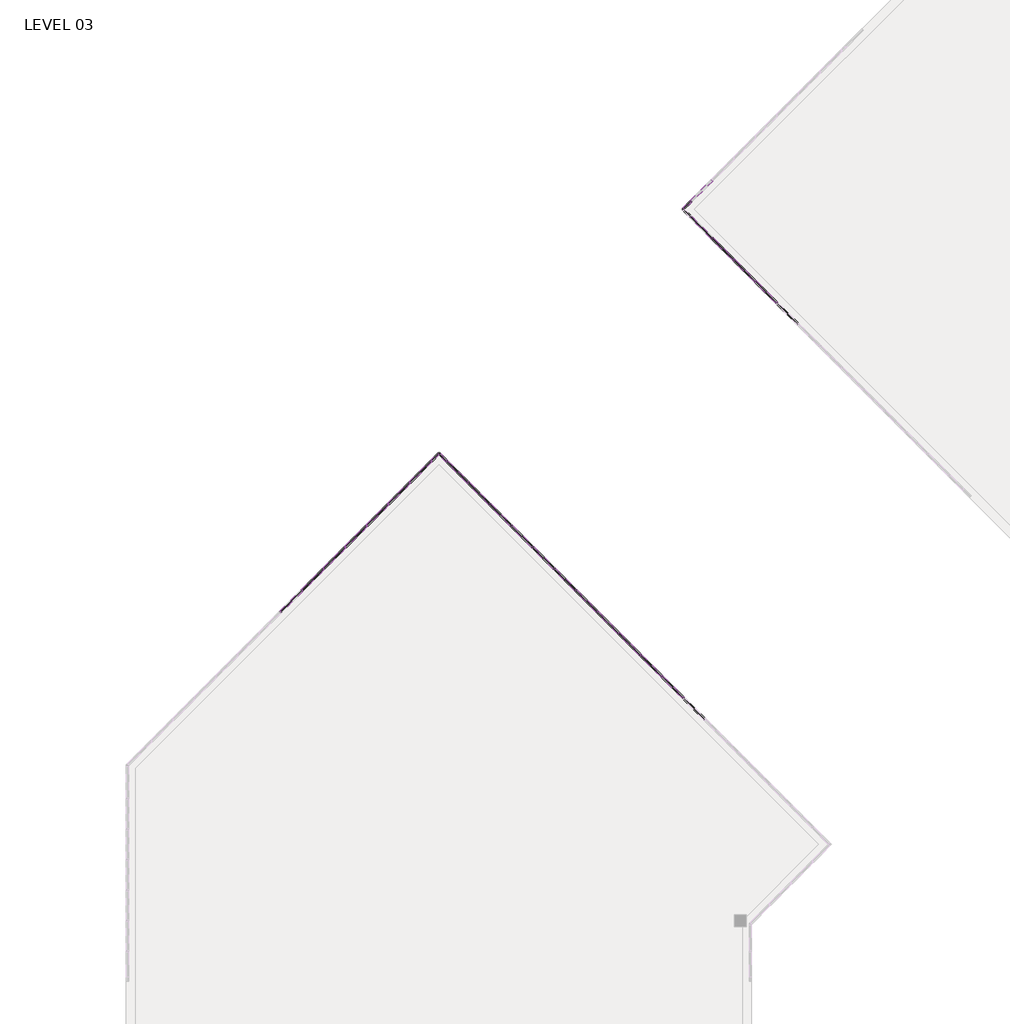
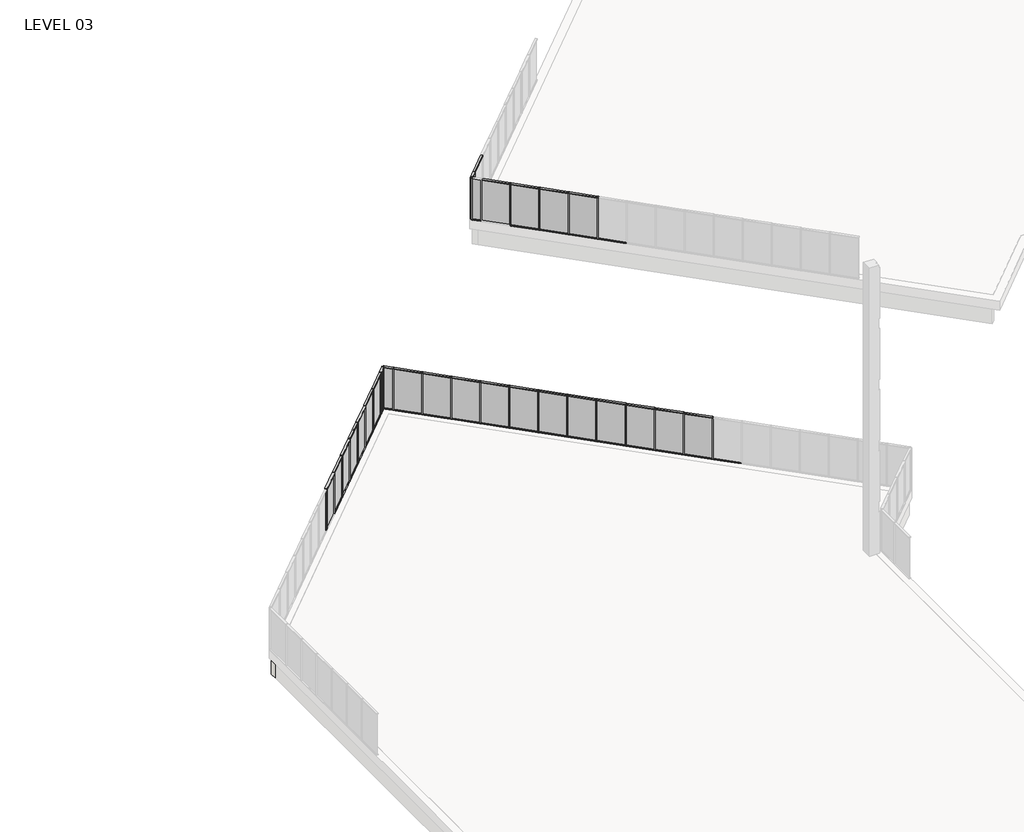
# One storey, part 6 of 18: 81 members, 26 plates, 2 walls.
"""IFC4 building model written with IfcOpenShell, lengths in millimetres."""

from ifc_helpers import new_model, si_unit, origin, place, context, project, spatial, faceted_brep, transform, mapped, element, save
from components import member_5247f267, member_e44af9ab, member_800970d4, member_ac5115e9, member_25b26a38, member_910c08c9, plate_67294edd, plate_c01932d8, plate_6d527a83, plate_88df3e37

model = new_model("IFC4")

# Units and contexts
model_context = context("Model", 3, world=origin())
ifc_project = project(units=[si_unit("LENGTHUNIT", "METRE", prefix="MILLI")], contexts=[model_context])

# Site, building, storey
site = spatial("IfcSite", under=ifc_project)
building = spatial("IfcBuilding", under=site)
storey = spatial("IfcBuildingStorey", under=building, Name="LEVEL 03", Elevation=8280.4)

# Members
placement = place(None, origin())
member_shape = member_5247f267(model_context)
element("IfcMember", 1, ObjectType="Rectangular Mullion : 2\" x 4.5\" rectangular", at=placement, inside=storey, context=model_context, shape_type="MappedRepresentation", body=[
    mapped(member_shape, transform((-3497.8097592, 103063.8559285, 8280.4), x_axis=(0.0, 0.0, -1.0), y_axis=(-0.7071067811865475, -0.7071067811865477, 0.0), z_axis=(-0.7071067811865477, 0.7071067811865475, 0.0))),
])
element("IfcMember", 2, ObjectType="Rectangular Mullion : 2\" x 4.5\" rectangular", at=placement, inside=storey, context=model_context, shape_type="MappedRepresentation", body=[
    mapped(member_shape, transform((-2420.1790246, 101986.2251939, 8280.4), x_axis=(0.0, 0.0, -1.0), y_axis=(-0.7071067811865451, -0.7071067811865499, 0.0), z_axis=(-0.7071067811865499, 0.7071067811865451, 0.0))),
])
element("IfcMember", 3, ObjectType="Rectangular Mullion : 2\" x 4.5\" rectangular", at=placement, inside=storey, context=model_context, shape_type="MappedRepresentation", body=[
    mapped(member_shape, transform((-1342.5482901, 100908.5944594, 8280.4), x_axis=(0.0, 0.0, -1.0), y_axis=(-0.7071067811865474, -0.7071067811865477, 0.0), z_axis=(-0.7071067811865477, 0.7071067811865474, 0.0))),
])
element("IfcMember", 4, ObjectType="Rectangular Mullion : 2\" x 4.5\" rectangular", at=placement, inside=storey, context=model_context, shape_type="MappedRepresentation", body=[
    mapped(member_shape, transform((-264.9175556, 99830.9637249, 8280.4), x_axis=(0.0, 0.0, -1.0), y_axis=(-0.7071067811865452, -0.7071067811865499, 0.0), z_axis=(-0.7071067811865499, 0.7071067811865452, 0.0))),
])
element("IfcMember", 5, ObjectType="Rectangular Mullion : 2\" x 4.5\" rectangular", at=placement, inside=storey, context=model_context, shape_type="MappedRepresentation", body=[
    mapped(member_shape, transform((-3533.7307836, 103099.7769529, 10871.2), x_axis=(0.0, 0.0, 1.0), y_axis=(-0.7071067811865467, -0.7071067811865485, 0.0), z_axis=(0.7071067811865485, -0.7071067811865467, 0.0))),
])
element("IfcMember", 6, ObjectType="Rectangular Mullion : 2\" x 4.5\" rectangular", at=placement, inside=storey, context=model_context, shape_type="MappedRepresentation", body=[
    mapped(member_shape, transform((-2456.1000491, 102022.1462184, 10871.2), x_axis=(0.0, 0.0, 1.0), y_axis=(-0.7071067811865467, -0.7071067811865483, 0.0), z_axis=(0.7071067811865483, -0.7071067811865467, 0.0))),
])
element("IfcMember", 7, ObjectType="Rectangular Mullion : 2\" x 4.5\" rectangular", at=placement, inside=storey, context=model_context, shape_type="MappedRepresentation", body=[
    mapped(member_shape, transform((-1378.4693146, 100944.5154839, 10871.2), x_axis=(0.0, 0.0, 1.0), y_axis=(-0.707106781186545, -0.7071067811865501, 0.0), z_axis=(0.7071067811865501, -0.707106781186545, 0.0))),
])
element("IfcMember", 8, ObjectType="Rectangular Mullion : 2\" x 4.5\" rectangular", at=placement, inside=storey, context=model_context, shape_type="MappedRepresentation", body=[
    mapped(member_shape, transform((-4575.6191663, 104942.0892742, 10871.2), x_axis=(0.0, 0.0, 1.0), y_axis=(-0.7071067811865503, 0.7071067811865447, 0.0), z_axis=(-0.7071067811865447, -0.7071067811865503, 0.0))),
])
element("IfcMember", 9, ObjectType="Rectangular Mullion : 2\" x 4.5\" rectangular", at=placement, inside=storey, context=model_context, shape_type="MappedRepresentation", body=[
    mapped(member_shape, transform((-300.8385801, 99866.8847494, 10871.2), x_axis=(0.0, 0.0, 1.0), y_axis=(-0.7071067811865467, -0.7071067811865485, 0.0), z_axis=(0.7071067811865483, -0.7071067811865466, 0.0))),
])
member_2_shape = member_e44af9ab(model_context)
element("IfcMember", 10, ObjectType="Rectangular Mullion : 2\" x 4.5\" rectangular", at=placement, inside=storey, context=model_context, shape_type="MappedRepresentation", body=[
    mapped(member_2_shape, transform((-3515.7702714, 103081.8164407, 8280.4), x_axis=(0.7071067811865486, -0.7071067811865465, 0.0), y_axis=(-0.7071067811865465, -0.7071067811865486, 0.0), z_axis=(0.0, 0.0, -1.0))),
])
element("IfcMember", 11, ObjectType="Rectangular Mullion : 2\" x 4.5\" rectangular", at=placement, inside=storey, context=model_context, shape_type="MappedRepresentation", body=[
    mapped(member_2_shape, transform((-2438.1395369, 102004.1857062, 8280.4), x_axis=(0.7071067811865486, -0.7071067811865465, 0.0), y_axis=(-0.7071067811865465, -0.7071067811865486, 0.0), z_axis=(0.0, 0.0, -1.0))),
])
element("IfcMember", 12, ObjectType="Rectangular Mullion : 2\" x 4.5\" rectangular", at=placement, inside=storey, context=model_context, shape_type="MappedRepresentation", body=[
    mapped(member_2_shape, transform((-1360.5088023, 100926.5549716, 8280.4), x_axis=(0.7071067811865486, -0.7071067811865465, 0.0), y_axis=(-0.7071067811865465, -0.7071067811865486, 0.0), z_axis=(0.0, 0.0, -1.0))),
])
element("IfcMember", 13, ObjectType="Rectangular Mullion : 2\" x 4.5\" rectangular", at=placement, inside=storey, context=model_context, shape_type="MappedRepresentation", body=[
    mapped(member_2_shape, transform((-4593.5796786, 104924.128762, 8280.4), x_axis=(-0.7071067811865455, -0.7071067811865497, 0.0), y_axis=(-0.7071067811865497, 0.7071067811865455, 0.0), z_axis=(0.0, 0.0, -1.0))),
])
element("IfcMember", 14, ObjectType="Rectangular Mullion : 2\" x 4.5\" rectangular", at=placement, inside=storey, context=model_context, shape_type="MappedRepresentation", body=[
    mapped(member_2_shape, transform((-282.8780678, 99848.9242371, 8280.4), x_axis=(0.7071067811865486, -0.7071067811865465, 0.0), y_axis=(-0.7071067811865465, -0.7071067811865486, 0.0), z_axis=(0.0, 0.0, -1.0))),
])
member_3_shape = member_800970d4(model_context)
element("IfcMember", 15, ObjectType="Rectangular Mullion : 2\" x 4.5\" rectangular", at=placement, inside=storey, context=model_context, shape_type="MappedRepresentation", body=[
    mapped(member_3_shape, transform((-4975.8311356, 104541.8773049, 8280.4), x_axis=(-0.7071067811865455, -0.7071067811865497, 0.0), y_axis=(-0.7071067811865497, 0.7071067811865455, 0.0), z_axis=(0.0, 0.0, -1.0))),
])
element("IfcMember", 16, ObjectType="Rectangular Mullion : 2\" x 4.5\" rectangular", at=placement, inside=storey, context=model_context, shape_type="MappedRepresentation", body=[
    mapped(member_3_shape, transform((-4975.8311356, 104541.8773049, 10871.2), x_axis=(-0.7071067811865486, 0.7071067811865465, 0.0), y_axis=(-0.7071067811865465, -0.7071067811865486, 0.0), z_axis=(0.0, 0.0, 1.0))),
])
member_4_shape = member_ac5115e9(model_context)
element("IfcMember", 17, ObjectType="Rectangular Mullion : 2\" x 4.5\" rectangular", at=placement, inside=storey, context=model_context, shape_type="MappedRepresentation", body=[
    mapped(member_4_shape, transform((-4939.9101111, 104577.7983294, 10871.2), x_axis=(0.0, 0.0, 1.0), y_axis=(-0.7071067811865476, 0.7071067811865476, 0.0), z_axis=(-0.7071067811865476, -0.7071067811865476, 0.0))),
])
element("IfcMember", 18, ObjectType="Rectangular Mullion : 2\" x 4.5\" rectangular", at=placement, inside=storey, context=model_context, shape_type="MappedRepresentation", body=[
    mapped(member_4_shape, transform((-4611.5401908, 104906.1682497, 8280.4), x_axis=(0.0, 0.0, -1.0), y_axis=(-0.7071067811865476, 0.7071067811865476, 0.0), z_axis=(0.7071067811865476, 0.7071067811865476, 0.0))),
])
member_5_shape = member_25b26a38(model_context)
element("IfcMember", 19, ObjectType="Rectangular Mullion : 2\" x 4.5\" rectangular", at=placement, inside=storey, context=model_context, shape_type="MappedRepresentation", body=[
    mapped(member_5_shape, transform((-4939.9101111, 104505.9562804, 8280.4), x_axis=(0.0, 0.0, -1.0), y_axis=(-0.7071067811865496, -0.7071067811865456, 0.0), z_axis=(-0.7071067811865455, 0.7071067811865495, 0.0))),
])
element("IfcMember", 20, ObjectType="Rectangular Mullion : 2\" x 4.5\" rectangular", at=placement, inside=storey, context=model_context, shape_type="MappedRepresentation", body=[
    mapped(member_shape, transform((-24063.9560929, 85453.7523477, 10871.2), x_axis=(0.0, 0.0, 1.0), y_axis=(0.707106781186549, -0.7071067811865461, 0.0), z_axis=(0.7071067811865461, 0.707106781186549, 0.0))),
])
element("IfcMember", 21, ObjectType="Rectangular Mullion : 2\" x 4.5\" rectangular", at=placement, inside=storey, context=model_context, shape_type="MappedRepresentation", body=[
    mapped(member_shape, transform((-18675.8024202, 90841.9060203, 10871.2), x_axis=(0.0, 0.0, 1.0), y_axis=(0.707106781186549, -0.7071067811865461, 0.0), z_axis=(0.7071067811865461, 0.707106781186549, 0.0))),
])
element("IfcMember", 22, ObjectType="Rectangular Mullion : 2\" x 4.5\" rectangular", at=placement, inside=storey, context=model_context, shape_type="MappedRepresentation", body=[
    mapped(member_shape, transform((-15755.8593644, 90877.6483722, 10871.2), x_axis=(0.0, 0.0, 1.0), y_axis=(-0.7071067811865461, -0.707106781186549, 0.0), z_axis=(0.707106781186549, -0.7071067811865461, 0.0))),
])
element("IfcMember", 23, ObjectType="Rectangular Mullion : 2\" x 4.5\" rectangular", at=placement, inside=storey, context=model_context, shape_type="MappedRepresentation", body=[
    mapped(member_shape, transform((-14678.2286299, 89800.0176376, 10871.2), x_axis=(0.0, 0.0, 1.0), y_axis=(-0.7071067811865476, -0.7071067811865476, 0.0), z_axis=(0.7071067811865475, -0.7071067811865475, 0.0))),
])
element("IfcMember", 24, ObjectType="Rectangular Mullion : 2\" x 4.5\" rectangular", at=placement, inside=storey, context=model_context, shape_type="MappedRepresentation", body=[
    mapped(member_shape, transform((-13600.5978954, 88722.3869031, 10871.2), x_axis=(0.0, 0.0, 1.0), y_axis=(-0.7071067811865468, -0.7071067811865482, 0.0), z_axis=(0.7071067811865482, -0.7071067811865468, 0.0))),
])
element("IfcMember", 25, ObjectType="Rectangular Mullion : 2\" x 4.5\" rectangular", at=placement, inside=storey, context=model_context, shape_type="MappedRepresentation", body=[
    mapped(member_shape, transform((-11445.3364263, 86567.125434, 10871.2), x_axis=(0.0, 0.0, 1.0), y_axis=(-0.7071067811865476, -0.7071067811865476, 0.0), z_axis=(0.7071067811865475, -0.7071067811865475, 0.0))),
])
element("IfcMember", 26, ObjectType="Rectangular Mullion : 2\" x 4.5\" rectangular", at=placement, inside=storey, context=model_context, shape_type="MappedRepresentation", body=[
    mapped(member_shape, transform((-10367.7056918, 85489.4946995, 10871.2), x_axis=(0.0, 0.0, 1.0), y_axis=(-0.7071067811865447, -0.7071067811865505, 0.0), z_axis=(0.7071067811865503, -0.7071067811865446, 0.0))),
])
element("IfcMember", 27, ObjectType="Rectangular Mullion : 2\" x 4.5\" rectangular", at=placement, inside=storey, context=model_context, shape_type="MappedRepresentation", body=[
    mapped(member_shape, transform((-9290.0749572, 84411.863965, 10871.2), x_axis=(0.0, 0.0, 1.0), y_axis=(-0.7071067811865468, -0.7071067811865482, 0.0), z_axis=(0.7071067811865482, -0.7071067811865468, 0.0))),
])
element("IfcMember", 28, ObjectType="Rectangular Mullion : 2\" x 4.5\" rectangular", at=placement, inside=storey, context=model_context, shape_type="MappedRepresentation", body=[
    mapped(member_shape, transform((-8212.4442227, 83334.2332305, 10871.2), x_axis=(0.0, 0.0, 1.0), y_axis=(-0.7071067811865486, -0.7071067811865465, 0.0), z_axis=(0.7071067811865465, -0.7071067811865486, 0.0))),
])
element("IfcMember", 29, ObjectType="Rectangular Mullion : 2\" x 4.5\" rectangular", at=placement, inside=storey, context=model_context, shape_type="MappedRepresentation", body=[
    mapped(member_shape, transform((-4979.9093644, 80101.6983722, 10871.2), x_axis=(0.0, 0.0, 1.0), y_axis=(-0.7071067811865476, -0.7071067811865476, 0.0), z_axis=(0.7071067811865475, -0.7071067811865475, 0.0))),
])
element("IfcMember", 30, ObjectType="Rectangular Mullion : 2\" x 4.5\" rectangular", at=placement, inside=storey, context=model_context, shape_type="MappedRepresentation", body=[
    mapped(member_shape, transform((-21908.6946238, 87609.0138167, 10871.2), x_axis=(0.0, 0.0, 1.0), y_axis=(0.707106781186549, -0.7071067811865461, 0.0), z_axis=(0.7071067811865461, 0.707106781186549, 0.0))),
])
element("IfcMember", 31, ObjectType="Rectangular Mullion : 2\" x 4.5\" rectangular", at=placement, inside=storey, context=model_context, shape_type="MappedRepresentation", body=[
    mapped(member_shape, transform((-22986.3253583, 86531.3830822, 10871.2), x_axis=(0.0, 0.0, 1.0), y_axis=(0.7071067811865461, -0.707106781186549, 0.0), z_axis=(0.707106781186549, 0.7071067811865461, 0.0))),
])
element("IfcMember", 32, ObjectType="Rectangular Mullion : 2\" x 4.5\" rectangular", at=placement, inside=storey, context=model_context, shape_type="MappedRepresentation", body=[
    mapped(member_shape, transform((-20831.0638893, 88686.6445513, 10871.2), x_axis=(0.0, 0.0, 1.0), y_axis=(0.7071067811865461, -0.707106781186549, 0.0), z_axis=(0.707106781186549, 0.7071067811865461, 0.0))),
])
element("IfcMember", 33, ObjectType="Rectangular Mullion : 2\" x 4.5\" rectangular", at=placement, inside=storey, context=model_context, shape_type="MappedRepresentation", body=[
    mapped(member_shape, transform((-19753.4331548, 89764.2752858, 10871.2), x_axis=(0.0, 0.0, 1.0), y_axis=(0.7071067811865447, -0.7071067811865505, 0.0), z_axis=(0.7071067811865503, 0.7071067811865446, 0.0))),
])
element("IfcMember", 34, ObjectType="Rectangular Mullion : 2\" x 4.5\" rectangular", at=placement, inside=storey, context=model_context, shape_type="MappedRepresentation", body=[
    mapped(member_shape, transform((-17598.1716857, 91919.5367548, 10871.2), x_axis=(0.0, 0.0, 1.0), y_axis=(0.7071067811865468, -0.7071067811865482, 0.0), z_axis=(0.7071067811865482, 0.7071067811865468, 0.0))),
])
element("IfcMember", 35, ObjectType="Rectangular Mullion : 2\" x 4.5\" rectangular", at=placement, inside=storey, context=model_context, shape_type="MappedRepresentation", body=[
    mapped(member_shape, transform((-12522.9671608, 87644.7561686, 10871.2), x_axis=(0.0, 0.0, 1.0), y_axis=(-0.7071067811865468, -0.7071067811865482, 0.0), z_axis=(0.7071067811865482, -0.7071067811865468, 0.0))),
])
element("IfcMember", 36, ObjectType="Rectangular Mullion : 2\" x 4.5\" rectangular", at=placement, inside=storey, context=model_context, shape_type="MappedRepresentation", body=[
    mapped(member_shape, transform((-24028.0350684, 85489.6733722, 8280.4), x_axis=(0.0, 0.0, -1.0), y_axis=(0.7071067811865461, -0.707106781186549, 0.0), z_axis=(-0.707106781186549, -0.7071067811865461, 0.0))),
])
element("IfcMember", 37, ObjectType="Rectangular Mullion : 2\" x 4.5\" rectangular", at=placement, inside=storey, context=model_context, shape_type="MappedRepresentation", body=[
    mapped(member_shape, transform((-18639.8813957, 90877.8270448, 8280.4), x_axis=(0.0, 0.0, -1.0), y_axis=(0.7071067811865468, -0.7071067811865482, 0.0), z_axis=(-0.7071067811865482, -0.7071067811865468, 0.0))),
])
element("IfcMember", 38, ObjectType="Rectangular Mullion : 2\" x 4.5\" rectangular", at=placement, inside=storey, context=model_context, shape_type="MappedRepresentation", body=[
    mapped(member_shape, transform((-15719.9383399, 90841.7273477, 8280.4), x_axis=(0.0, 0.0, -1.0), y_axis=(-0.7071067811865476, -0.7071067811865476, 0.0), z_axis=(-0.7071067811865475, 0.7071067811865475, 0.0))),
])
element("IfcMember", 39, ObjectType="Rectangular Mullion : 2\" x 4.5\" rectangular", at=placement, inside=storey, context=model_context, shape_type="MappedRepresentation", body=[
    mapped(member_shape, transform((-14642.3076054, 89764.0966131, 8280.4), x_axis=(0.0, 0.0, -1.0), y_axis=(-0.707106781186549, -0.7071067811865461, 0.0), z_axis=(-0.7071067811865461, 0.707106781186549, 0.0))),
])
element("IfcMember", 40, ObjectType="Rectangular Mullion : 2\" x 4.5\" rectangular", at=placement, inside=storey, context=model_context, shape_type="MappedRepresentation", body=[
    mapped(member_shape, transform((-13564.6768709, 88686.4658786, 8280.4), x_axis=(0.0, 0.0, -1.0), y_axis=(-0.7071067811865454, -0.7071067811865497, 0.0), z_axis=(-0.7071067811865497, 0.7071067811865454, 0.0))),
])
element("IfcMember", 41, ObjectType="Rectangular Mullion : 2\" x 4.5\" rectangular", at=placement, inside=storey, context=model_context, shape_type="MappedRepresentation", body=[
    mapped(member_shape, transform((-11409.4154018, 86531.2044096, 8280.4), x_axis=(0.0, 0.0, -1.0), y_axis=(-0.7071067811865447, -0.7071067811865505, 0.0), z_axis=(-0.7071067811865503, 0.7071067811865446, 0.0))),
])
element("IfcMember", 42, ObjectType="Rectangular Mullion : 2\" x 4.5\" rectangular", at=placement, inside=storey, context=model_context, shape_type="MappedRepresentation", body=[
    mapped(member_shape, transform((-10331.7846673, 85453.573675, 8280.4), x_axis=(0.0, 0.0, -1.0), y_axis=(-0.7071067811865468, -0.7071067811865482, 0.0), z_axis=(-0.7071067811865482, 0.7071067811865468, 0.0))),
])
element("IfcMember", 43, ObjectType="Rectangular Mullion : 2\" x 4.5\" rectangular", at=placement, inside=storey, context=model_context, shape_type="MappedRepresentation", body=[
    mapped(member_shape, transform((-9254.1539328, 84375.9429405, 8280.4), x_axis=(0.0, 0.0, -1.0), y_axis=(-0.7071067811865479, -0.7071067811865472, 0.0), z_axis=(-0.7071067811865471, 0.7071067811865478, 0.0))),
])
element("IfcMember", 44, ObjectType="Rectangular Mullion : 2\" x 4.5\" rectangular", at=placement, inside=storey, context=model_context, shape_type="MappedRepresentation", body=[
    mapped(member_shape, transform((-6021.6190745, 81143.4080822, 8280.4), x_axis=(0.0, 0.0, -1.0), y_axis=(-0.7071067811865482, -0.7071067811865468, 0.0), z_axis=(-0.7071067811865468, 0.7071067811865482, 0.0))),
])
element("IfcMember", 45, ObjectType="Rectangular Mullion : 2\" x 4.5\" rectangular", at=placement, inside=storey, context=model_context, shape_type="MappedRepresentation", body=[
    mapped(member_shape, transform((-4943.9883399, 80065.7773477, 8280.4), x_axis=(0.0, 0.0, -1.0), y_axis=(-0.7071067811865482, -0.7071067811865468, 0.0), z_axis=(-0.7071067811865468, 0.7071067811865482, 0.0))),
])
element("IfcMember", 46, ObjectType="Rectangular Mullion : 2\" x 4.5\" rectangular", at=placement, inside=storey, context=model_context, shape_type="MappedRepresentation", body=[
    mapped(member_shape, transform((-21872.7735993, 87644.9348412, 8280.4), x_axis=(0.0, 0.0, -1.0), y_axis=(0.7071067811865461, -0.707106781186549, 0.0), z_axis=(-0.707106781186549, -0.7071067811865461, 0.0))),
])
element("IfcMember", 47, ObjectType="Rectangular Mullion : 2\" x 4.5\" rectangular", at=placement, inside=storey, context=model_context, shape_type="MappedRepresentation", body=[
    mapped(member_shape, transform((-22950.4043339, 86567.3041067, 8280.4), x_axis=(0.0, 0.0, -1.0), y_axis=(0.707106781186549, -0.7071067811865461, 0.0), z_axis=(-0.7071067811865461, -0.707106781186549, 0.0))),
])
element("IfcMember", 48, ObjectType="Rectangular Mullion : 2\" x 4.5\" rectangular", at=placement, inside=storey, context=model_context, shape_type="MappedRepresentation", body=[
    mapped(member_shape, transform((-20795.1428648, 88722.5655757, 8280.4), x_axis=(0.0, 0.0, -1.0), y_axis=(0.7071067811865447, -0.7071067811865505, 0.0), z_axis=(-0.7071067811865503, -0.7071067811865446, 0.0))),
])
element("IfcMember", 49, ObjectType="Rectangular Mullion : 2\" x 4.5\" rectangular", at=placement, inside=storey, context=model_context, shape_type="MappedRepresentation", body=[
    mapped(member_shape, transform((-19717.5121303, 89800.1963103, 8280.4), x_axis=(0.0, 0.0, -1.0), y_axis=(0.707106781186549, -0.7071067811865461, 0.0), z_axis=(-0.7071067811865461, -0.707106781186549, 0.0))),
])
element("IfcMember", 50, ObjectType="Rectangular Mullion : 2\" x 4.5\" rectangular", at=placement, inside=storey, context=model_context, shape_type="MappedRepresentation", body=[
    mapped(member_shape, transform((-12487.0461363, 87608.8351441, 8280.4), x_axis=(0.0, 0.0, -1.0), y_axis=(-0.7071067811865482, -0.7071067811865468, 0.0), z_axis=(-0.7071067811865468, 0.7071067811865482, 0.0))),
])
element("IfcMember", 51, ObjectType="Rectangular Mullion : 2\" x 4.5\" rectangular", at=placement, inside=storey, context=model_context, shape_type="MappedRepresentation", body=[
    mapped(member_shape, transform((-16797.5690745, 91919.3580822, 8280.4), x_axis=(0.0, 0.0, -1.0), y_axis=(-0.7071067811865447, -0.7071067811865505, 0.0), z_axis=(-0.7071067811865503, 0.7071067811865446, 0.0))),
])
element("IfcMember", 52, ObjectType="Rectangular Mullion : 2\" x 4.5\" rectangular", at=placement, inside=storey, context=model_context, shape_type="MappedRepresentation", body=[
    mapped(member_2_shape, transform((-25123.6263152, 84394.0821254, 8280.4), x_axis=(0.7071067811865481, 0.7071067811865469, 0.0), y_axis=(0.7071067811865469, -0.7071067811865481, 0.0), z_axis=(0.0, 0.0, -1.0))),
])
element("IfcMember", 53, ObjectType="Rectangular Mullion : 2\" x 4.5\" rectangular", at=placement, inside=storey, context=model_context, shape_type="MappedRepresentation", body=[
    mapped(member_2_shape, transform((-24045.9955806, 85471.7128599, 8280.4), x_axis=(0.7071067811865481, 0.7071067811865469, 0.0), y_axis=(0.7071067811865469, -0.7071067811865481, 0.0), z_axis=(0.0, 0.0, -1.0))),
])
element("IfcMember", 54, ObjectType="Rectangular Mullion : 2\" x 4.5\" rectangular", at=placement, inside=storey, context=model_context, shape_type="MappedRepresentation", body=[
    mapped(member_2_shape, transform((-18657.841908, 90859.8665326, 8280.4), x_axis=(0.7071067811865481, 0.7071067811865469, 0.0), y_axis=(0.7071067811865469, -0.7071067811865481, 0.0), z_axis=(0.0, 0.0, -1.0))),
])
element("IfcMember", 55, ObjectType="Rectangular Mullion : 2\" x 4.5\" rectangular", at=placement, inside=storey, context=model_context, shape_type="MappedRepresentation", body=[
    mapped(member_2_shape, transform((-15737.8988522, 90859.6878599, 8280.4), x_axis=(0.707106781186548, -0.7071067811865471, 0.0), y_axis=(-0.7071067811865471, -0.707106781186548, 0.0), z_axis=(0.0, 0.0, -1.0))),
])
element("IfcMember", 56, ObjectType="Rectangular Mullion : 2\" x 4.5\" rectangular", at=placement, inside=storey, context=model_context, shape_type="MappedRepresentation", body=[
    mapped(member_2_shape, transform((-14660.2681176, 89782.0571254, 8280.4), x_axis=(0.707106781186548, -0.7071067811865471, 0.0), y_axis=(-0.7071067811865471, -0.707106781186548, 0.0), z_axis=(0.0, 0.0, -1.0))),
])
element("IfcMember", 57, ObjectType="Rectangular Mullion : 2\" x 4.5\" rectangular", at=placement, inside=storey, context=model_context, shape_type="MappedRepresentation", body=[
    mapped(member_2_shape, transform((-13582.6373831, 88704.4263909, 8280.4), x_axis=(0.707106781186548, -0.7071067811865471, 0.0), y_axis=(-0.7071067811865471, -0.707106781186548, 0.0), z_axis=(0.0, 0.0, -1.0))),
])
element("IfcMember", 58, ObjectType="Rectangular Mullion : 2\" x 4.5\" rectangular", at=placement, inside=storey, context=model_context, shape_type="MappedRepresentation", body=[
    mapped(member_2_shape, transform((-11427.3759141, 86549.1649218, 8280.4), x_axis=(0.707106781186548, -0.7071067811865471, 0.0), y_axis=(-0.7071067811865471, -0.707106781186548, 0.0), z_axis=(0.0, 0.0, -1.0))),
])
element("IfcMember", 59, ObjectType="Rectangular Mullion : 2\" x 4.5\" rectangular", at=placement, inside=storey, context=model_context, shape_type="MappedRepresentation", body=[
    mapped(member_2_shape, transform((-10349.7451795, 85471.5341873, 8280.4), x_axis=(0.707106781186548, -0.7071067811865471, 0.0), y_axis=(-0.7071067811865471, -0.707106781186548, 0.0), z_axis=(0.0, 0.0, -1.0))),
])
element("IfcMember", 60, ObjectType="Rectangular Mullion : 2\" x 4.5\" rectangular", at=placement, inside=storey, context=model_context, shape_type="MappedRepresentation", body=[
    mapped(member_2_shape, transform((-9272.114445, 84393.9034527, 8280.4), x_axis=(0.707106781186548, -0.7071067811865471, 0.0), y_axis=(-0.7071067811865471, -0.707106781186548, 0.0), z_axis=(0.0, 0.0, -1.0))),
])
element("IfcMember", 61, ObjectType="Rectangular Mullion : 2\" x 4.5\" rectangular", at=placement, inside=storey, context=model_context, shape_type="MappedRepresentation", body=[
    mapped(member_2_shape, transform((-8194.4837105, 83316.2727182, 8280.4), x_axis=(0.707106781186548, -0.7071067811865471, 0.0), y_axis=(-0.7071067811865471, -0.707106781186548, 0.0), z_axis=(0.0, 0.0, -1.0))),
])
element("IfcMember", 62, ObjectType="Rectangular Mullion : 2\" x 4.5\" rectangular", at=placement, inside=storey, context=model_context, shape_type="MappedRepresentation", body=[
    mapped(member_2_shape, transform((-6039.5795867, 81161.3685944, 8280.4), x_axis=(0.707106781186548, -0.7071067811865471, 0.0), y_axis=(-0.7071067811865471, -0.707106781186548, 0.0), z_axis=(0.0, 0.0, -1.0))),
])
element("IfcMember", 63, ObjectType="Rectangular Mullion : 2\" x 4.5\" rectangular", at=placement, inside=storey, context=model_context, shape_type="MappedRepresentation", body=[
    mapped(member_2_shape, transform((-4961.9488522, 80083.7378599, 8280.4), x_axis=(0.707106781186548, -0.7071067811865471, 0.0), y_axis=(-0.7071067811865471, -0.707106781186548, 0.0), z_axis=(0.0, 0.0, -1.0))),
])
element("IfcMember", 64, ObjectType="Rectangular Mullion : 2\" x 4.5\" rectangular", at=placement, inside=storey, context=model_context, shape_type="MappedRepresentation", body=[
    mapped(member_2_shape, transform((-21890.7341116, 87626.974329, 8280.4), x_axis=(0.7071067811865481, 0.7071067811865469, 0.0), y_axis=(0.7071067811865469, -0.7071067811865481, 0.0), z_axis=(0.0, 0.0, -1.0))),
])
element("IfcMember", 65, ObjectType="Rectangular Mullion : 2\" x 4.5\" rectangular", at=placement, inside=storey, context=model_context, shape_type="MappedRepresentation", body=[
    mapped(member_2_shape, transform((-22968.3648461, 86549.3435944, 8280.4), x_axis=(0.7071067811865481, 0.7071067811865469, 0.0), y_axis=(0.7071067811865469, -0.7071067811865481, 0.0), z_axis=(0.0, 0.0, -1.0))),
])
element("IfcMember", 66, ObjectType="Rectangular Mullion : 2\" x 4.5\" rectangular", at=placement, inside=storey, context=model_context, shape_type="MappedRepresentation", body=[
    mapped(member_2_shape, transform((-20813.103377, 88704.6050635, 8280.4), x_axis=(0.7071067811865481, 0.7071067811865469, 0.0), y_axis=(0.7071067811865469, -0.7071067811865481, 0.0), z_axis=(0.0, 0.0, -1.0))),
])
element("IfcMember", 67, ObjectType="Rectangular Mullion : 2\" x 4.5\" rectangular", at=placement, inside=storey, context=model_context, shape_type="MappedRepresentation", body=[
    mapped(member_2_shape, transform((-19735.4726425, 89782.235798, 8280.4), x_axis=(0.7071067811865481, 0.7071067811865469, 0.0), y_axis=(0.7071067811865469, -0.7071067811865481, 0.0), z_axis=(0.0, 0.0, -1.0))),
])
element("IfcMember", 68, ObjectType="Rectangular Mullion : 2\" x 4.5\" rectangular", at=placement, inside=storey, context=model_context, shape_type="MappedRepresentation", body=[
    mapped(member_2_shape, transform((-17580.2111735, 91937.4972671, 8280.4), x_axis=(0.7071067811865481, 0.7071067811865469, 0.0), y_axis=(0.7071067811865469, -0.7071067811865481, 0.0), z_axis=(0.0, 0.0, -1.0))),
])
element("IfcMember", 69, ObjectType="Rectangular Mullion : 2\" x 4.5\" rectangular", at=placement, inside=storey, context=model_context, shape_type="MappedRepresentation", body=[
    mapped(member_2_shape, transform((-12505.0066486, 87626.7956563, 8280.4), x_axis=(0.707106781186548, -0.7071067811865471, 0.0), y_axis=(-0.7071067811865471, -0.707106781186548, 0.0), z_axis=(0.0, 0.0, -1.0))),
])
element("IfcMember", 70, ObjectType="Rectangular Mullion : 2\" x 4.5\" rectangular", at=placement, inside=storey, context=model_context, shape_type="MappedRepresentation", body=[
    mapped(member_2_shape, transform((-16815.5295867, 91937.3185944, 8280.4), x_axis=(0.707106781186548, -0.7071067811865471, 0.0), y_axis=(-0.7071067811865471, -0.707106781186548, 0.0), z_axis=(0.0, 0.0, -1.0))),
])
element("IfcMember", 71, ObjectType="Rectangular Mullion : 2\" x 4.5\" rectangular", at=placement, inside=storey, context=model_context, shape_type="MappedRepresentation", body=[
    mapped(member_2_shape, transform((-7117.0316486, 82238.8206563, 8280.4), x_axis=(0.707106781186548, -0.7071067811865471, 0.0), y_axis=(-0.7071067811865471, -0.707106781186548, 0.0), z_axis=(0.0, 0.0, -1.0))),
])
element("IfcMember", 72, ObjectType="Rectangular Mullion : 2\" x 4.5\" rectangular", at=placement, inside=storey, context=model_context, shape_type="MappedRepresentation", body=[
    mapped(member_3_shape, transform((-17197.9597164, 92319.7487241, 8280.4), x_axis=(0.7071067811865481, 0.7071067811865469, 0.0), y_axis=(0.7071067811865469, -0.7071067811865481, 0.0), z_axis=(0.0, 0.0, -1.0))),
])
element("IfcMember", 73, ObjectType="Rectangular Mullion : 2\" x 4.5\" rectangular", at=placement, inside=storey, context=model_context, shape_type="MappedRepresentation", body=[
    mapped(member_3_shape, transform((-17197.9597164, 92319.7487241, 10871.2), x_axis=(-0.707106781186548, 0.7071067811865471, 0.0), y_axis=(-0.7071067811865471, -0.707106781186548, 0.0), z_axis=(0.0, 0.0, 1.0))),
])
element("IfcMember", 74, ObjectType="Rectangular Mullion : 2\" x 4.5\" rectangular", at=placement, inside=storey, context=model_context, shape_type="MappedRepresentation", body=[
    mapped(member_5_shape, transform((-16833.4900989, 91955.2791067, 10871.2), x_axis=(0.0, 0.0, 1.0), y_axis=(-0.7071067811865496, -0.7071067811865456, 0.0), z_axis=(0.7071067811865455, -0.7071067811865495, 0.0))),
])
element("IfcMember", 75, ObjectType="Rectangular Mullion : 2\" x 4.5\" rectangular", at=placement, inside=storey, context=model_context, shape_type="MappedRepresentation", body=[
    mapped(member_5_shape, transform((-17162.0386919, 92283.8276997, 8280.4), x_axis=(0.0, 0.0, -1.0), y_axis=(-0.7071067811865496, -0.7071067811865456, 0.0), z_axis=(-0.7071067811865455, 0.7071067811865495, 0.0))),
])
element("IfcMember", 76, ObjectType="Rectangular Mullion : 2\" x 4.5\" rectangular", at=placement, inside=storey, context=model_context, shape_type="MappedRepresentation", body=[
    mapped(member_4_shape, transform((-17233.8807409, 92283.8276997, 10871.2), x_axis=(0.0, 0.0, 1.0), y_axis=(0.7071067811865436, -0.7071067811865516, 0.0), z_axis=(0.7071067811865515, 0.7071067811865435, 0.0))),
])
element("IfcMember", 77, ObjectType="Rectangular Mullion : 2\" x 4.5\" rectangular", at=placement, inside=storey, context=model_context, shape_type="MappedRepresentation", body=[
    mapped(member_4_shape, transform((-17562.2506612, 91955.4577793, 8280.4), x_axis=(0.0, 0.0, -1.0), y_axis=(0.7071067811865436, -0.7071067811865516, 0.0), z_axis=(-0.7071067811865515, -0.7071067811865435, 0.0))),
])
member_6_shape = member_910c08c9(model_context)
element("IfcMember", 78, ObjectType="Rectangular Mullion : 2\" x 4.5\" rectangular", at=placement, inside=storey, context=model_context, shape_type="MappedRepresentation", body=[
    mapped(member_6_shape, transform((-6057.5400989, 81179.3291067, 10871.2), x_axis=(0.0, 0.0, 1.0), y_axis=(-0.7071067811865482, -0.7071067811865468, 0.0), z_axis=(0.7071067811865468, -0.7071067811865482, 0.0))),
])
element("IfcMember", 79, ObjectType="Rectangular Mullion : 2\" x 4.5\" rectangular", at=placement, inside=storey, context=model_context, shape_type="MappedRepresentation", body=[
    mapped(member_6_shape, transform((-7134.9921608, 82256.7811686, 10871.2), x_axis=(0.0, 0.0, 1.0), y_axis=(-0.7071067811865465, -0.7071067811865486, 0.0), z_axis=(0.7071067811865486, -0.7071067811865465, 0.0))),
])
element("IfcMember", 80, ObjectType="Rectangular Mullion : 2\" x 4.5\" rectangular", at=placement, inside=storey, context=model_context, shape_type="MappedRepresentation", body=[
    mapped(member_6_shape, transform((-8176.5231982, 83298.312206, 8280.4), x_axis=(0.0, 0.0, -1.0), y_axis=(-0.7071067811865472, -0.7071067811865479, 0.0), z_axis=(-0.7071067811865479, 0.7071067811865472, 0.0))),
])
element("IfcMember", 81, ObjectType="Rectangular Mullion : 2\" x 4.5\" rectangular", at=placement, inside=storey, context=model_context, shape_type="MappedRepresentation", body=[
    mapped(member_6_shape, transform((-7099.0711363, 82220.8601441, 8280.4), x_axis=(0.0, 0.0, -1.0), y_axis=(-0.7071067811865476, -0.7071067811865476, 0.0), z_axis=(-0.7071067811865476, 0.7071067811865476, 0.0))),
])

# Plates
plate_shape = plate_67294edd(model_context)
element("IfcPlate", 82, ObjectType="System Panel : 1/4\" Glass", at=placement, inside=storey, context=model_context, shape_type="MappedRepresentation", body=[
    mapped(plate_shape, transform((-2976.9549041, 102543.0010734, 8331.2), x_axis=(0.7071067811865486, -0.7071067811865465, 0.0), y_axis=(0.7071067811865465, 0.7071067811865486, 0.0), z_axis=(0.0, 0.0, 1.0))),
])
element("IfcPlate", 83, ObjectType="System Panel : 1/4\" Glass", at=placement, inside=storey, context=model_context, shape_type="MappedRepresentation", body=[
    mapped(plate_shape, transform((-1899.3241696, 101465.3703389, 8331.2), x_axis=(0.7071067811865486, -0.7071067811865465, 0.0), y_axis=(0.7071067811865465, 0.7071067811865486, 0.0), z_axis=(0.0, 0.0, 1.0))),
])
element("IfcPlate", 84, ObjectType="System Panel : 1/4\" Glass", at=placement, inside=storey, context=model_context, shape_type="MappedRepresentation", body=[
    mapped(plate_shape, transform((-821.6934351, 100387.7396044, 8331.2), x_axis=(0.7071067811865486, -0.7071067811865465, 0.0), y_axis=(0.7071067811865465, 0.7071067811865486, 0.0), z_axis=(0.0, 0.0, 1.0))),
])
element("IfcPlate", 85, ObjectType="System Panel : 1/4\" Glass", at=placement, inside=storey, context=model_context, shape_type="MappedRepresentation", body=[
    mapped(plate_shape, transform((-4054.5856387, 103620.631808, 8331.2), x_axis=(0.7071067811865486, -0.7071067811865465, 0.0), y_axis=(0.7071067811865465, 0.7071067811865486, 0.0), z_axis=(0.0, 0.0, 1.0))),
])
plate_2_shape = plate_c01932d8(model_context)
element("IfcPlate", 86, ObjectType="System Panel : 1/4\" Glass", at=placement, inside=storey, context=model_context, shape_type="MappedRepresentation", body=[
    mapped(plate_2_shape, transform((-4775.725151, 104741.9832896, 8331.2), x_axis=(-0.7071067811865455, -0.7071067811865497, 0.0), y_axis=(0.7071067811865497, -0.7071067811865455, 0.0), z_axis=(0.0, 0.0, 1.0))),
])
plate_3_shape = plate_6d527a83(model_context)
element("IfcPlate", 87, ObjectType="System Panel : 1/4\" Glass", at=placement, inside=storey, context=model_context, shape_type="MappedRepresentation", body=[
    mapped(plate_3_shape, transform((-4775.6358147, 104341.681984, 8331.2), x_axis=(0.7071067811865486, -0.7071067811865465, 0.0), y_axis=(0.7071067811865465, 0.7071067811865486, 0.0), z_axis=(0.0, 0.0, 1.0))),
])
element("IfcPlate", 88, ObjectType="System Panel : 1/4\" Glass", at=placement, inside=storey, context=model_context, shape_type="MappedRepresentation", body=[
    mapped(plate_shape, transform((-24584.8109479, 84932.8974927, 8331.2), x_axis=(0.7071067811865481, 0.7071067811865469, 0.0), y_axis=(-0.7071067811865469, 0.7071067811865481, 0.0), z_axis=(0.0, 0.0, 1.0))),
])
element("IfcPlate", 89, ObjectType="System Panel : 1/4\" Glass", at=placement, inside=storey, context=model_context, shape_type="MappedRepresentation", body=[
    mapped(plate_shape, transform((-23507.1802134, 86010.5282272, 8331.2), x_axis=(0.7071067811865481, 0.7071067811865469, 0.0), y_axis=(-0.7071067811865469, 0.7071067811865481, 0.0), z_axis=(0.0, 0.0, 1.0))),
])
element("IfcPlate", 90, ObjectType="System Panel : 1/4\" Glass", at=placement, inside=storey, context=model_context, shape_type="MappedRepresentation", body=[
    mapped(plate_shape, transform((-18119.0265407, 91398.6818998, 8331.2), x_axis=(0.7071067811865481, 0.7071067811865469, 0.0), y_axis=(-0.7071067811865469, 0.7071067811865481, 0.0), z_axis=(0.0, 0.0, 1.0))),
])
element("IfcPlate", 91, ObjectType="System Panel : 1/4\" Glass", at=placement, inside=storey, context=model_context, shape_type="MappedRepresentation", body=[
    mapped(plate_shape, transform((-15199.0834849, 90320.8724927, 8331.2), x_axis=(0.707106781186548, -0.7071067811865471, 0.0), y_axis=(0.7071067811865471, 0.707106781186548, 0.0), z_axis=(0.0, 0.0, 1.0))),
])
element("IfcPlate", 92, ObjectType="System Panel : 1/4\" Glass", at=placement, inside=storey, context=model_context, shape_type="MappedRepresentation", body=[
    mapped(plate_shape, transform((-14121.4527504, 89243.2417581, 8331.2), x_axis=(0.707106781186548, -0.7071067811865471, 0.0), y_axis=(0.7071067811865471, 0.707106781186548, 0.0), z_axis=(0.0, 0.0, 1.0))),
])
element("IfcPlate", 93, ObjectType="System Panel : 1/4\" Glass", at=placement, inside=storey, context=model_context, shape_type="MappedRepresentation", body=[
    mapped(plate_shape, transform((-13043.8220159, 88165.6110236, 8331.2), x_axis=(0.707106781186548, -0.7071067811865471, 0.0), y_axis=(0.7071067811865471, 0.707106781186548, 0.0), z_axis=(0.0, 0.0, 1.0))),
])
element("IfcPlate", 94, ObjectType="System Panel : 1/4\" Glass", at=placement, inside=storey, context=model_context, shape_type="MappedRepresentation", body=[
    mapped(plate_shape, transform((-10888.5605468, 86010.3495545, 8331.2), x_axis=(0.707106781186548, -0.7071067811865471, 0.0), y_axis=(0.7071067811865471, 0.707106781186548, 0.0), z_axis=(0.0, 0.0, 1.0))),
])
element("IfcPlate", 95, ObjectType="System Panel : 1/4\" Glass", at=placement, inside=storey, context=model_context, shape_type="MappedRepresentation", body=[
    mapped(plate_shape, transform((-9810.9298123, 84932.71882, 8331.2), x_axis=(0.707106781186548, -0.7071067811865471, 0.0), y_axis=(0.7071067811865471, 0.707106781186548, 0.0), z_axis=(0.0, 0.0, 1.0))),
])
element("IfcPlate", 96, ObjectType="System Panel : 1/4\" Glass", at=placement, inside=storey, context=model_context, shape_type="MappedRepresentation", body=[
    mapped(plate_shape, transform((-8733.2990777, 83855.0880855, 8331.2), x_axis=(0.707106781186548, -0.7071067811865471, 0.0), y_axis=(0.7071067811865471, 0.707106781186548, 0.0), z_axis=(0.0, 0.0, 1.0))),
])
element("IfcPlate", 97, ObjectType="System Panel : 1/4\" Glass", at=placement, inside=storey, context=model_context, shape_type="MappedRepresentation", body=[
    mapped(plate_shape, transform((-5500.7642194, 80622.5532272, 8331.2), x_axis=(0.707106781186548, -0.7071067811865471, 0.0), y_axis=(0.7071067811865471, 0.707106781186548, 0.0), z_axis=(0.0, 0.0, 1.0))),
])
element("IfcPlate", 98, ObjectType="System Panel : 1/4\" Glass", at=placement, inside=storey, context=model_context, shape_type="MappedRepresentation", body=[
    mapped(plate_shape, transform((-21351.9187443, 88165.7896962, 8331.2), x_axis=(0.7071067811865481, 0.7071067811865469, 0.0), y_axis=(-0.7071067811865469, 0.7071067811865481, 0.0), z_axis=(0.0, 0.0, 1.0))),
])
element("IfcPlate", 99, ObjectType="System Panel : 1/4\" Glass", at=placement, inside=storey, context=model_context, shape_type="MappedRepresentation", body=[
    mapped(plate_shape, transform((-22429.5494788, 87088.1589617, 8331.2), x_axis=(0.7071067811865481, 0.7071067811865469, 0.0), y_axis=(-0.7071067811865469, 0.7071067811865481, 0.0), z_axis=(0.0, 0.0, 1.0))),
])
element("IfcPlate", 100, ObjectType="System Panel : 1/4\" Glass", at=placement, inside=storey, context=model_context, shape_type="MappedRepresentation", body=[
    mapped(plate_shape, transform((-20274.2880098, 89243.4204308, 8331.2), x_axis=(0.7071067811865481, 0.7071067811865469, 0.0), y_axis=(-0.7071067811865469, 0.7071067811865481, 0.0), z_axis=(0.0, 0.0, 1.0))),
])
element("IfcPlate", 101, ObjectType="System Panel : 1/4\" Glass", at=placement, inside=storey, context=model_context, shape_type="MappedRepresentation", body=[
    mapped(plate_shape, transform((-19196.6572753, 90321.0511653, 8331.2), x_axis=(0.7071067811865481, 0.7071067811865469, 0.0), y_axis=(-0.7071067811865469, 0.7071067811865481, 0.0), z_axis=(0.0, 0.0, 1.0))),
])
element("IfcPlate", 102, ObjectType="System Panel : 1/4\" Glass", at=placement, inside=storey, context=model_context, shape_type="MappedRepresentation", body=[
    mapped(plate_shape, transform((-11966.1912813, 87087.9802891, 8331.2), x_axis=(0.707106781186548, -0.7071067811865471, 0.0), y_axis=(0.7071067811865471, 0.707106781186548, 0.0), z_axis=(0.0, 0.0, 1.0))),
])
element("IfcPlate", 103, ObjectType="System Panel : 1/4\" Glass", at=placement, inside=storey, context=model_context, shape_type="MappedRepresentation", body=[
    mapped(plate_shape, transform((-16276.7142194, 91398.5032272, 8331.2), x_axis=(0.707106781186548, -0.7071067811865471, 0.0), y_axis=(0.7071067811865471, 0.707106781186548, 0.0), z_axis=(0.0, 0.0, 1.0))),
])
element("IfcPlate", 104, ObjectType="System Panel : 1/4\" Glass", at=placement, inside=storey, context=model_context, shape_type="MappedRepresentation", body=[
    mapped(plate_3_shape, transform((-16997.7643954, 92119.5534032, 8331.2), x_axis=(0.707106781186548, -0.7071067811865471, 0.0), y_axis=(0.7071067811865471, 0.707106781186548, 0.0), z_axis=(0.0, 0.0, 1.0))),
])
plate_4_shape = plate_88df3e37(model_context)
element("IfcPlate", 105, ObjectType="System Panel : 1/4\" Glass", at=placement, inside=storey, context=model_context, shape_type="MappedRepresentation", body=[
    mapped(plate_4_shape, transform((-7655.7576795, 82777.5466873, 8331.2), x_axis=(0.707106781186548, -0.7071067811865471, 0.0), y_axis=(0.7071067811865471, 0.707106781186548, 0.0), z_axis=(0.0, 0.0, 1.0))),
])
element("IfcPlate", 106, ObjectType="System Panel : 1/4\" Glass", at=placement, inside=storey, context=model_context, shape_type="MappedRepresentation", body=[
    mapped(plate_4_shape, transform((-6578.3056176, 81700.0946254, 8331.2), x_axis=(0.707106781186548, -0.7071067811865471, 0.0), y_axis=(0.7071067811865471, 0.707106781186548, 0.0), z_axis=(0.0, 0.0, 1.0))),
])
element("IfcPlate", 107, ObjectType="System Panel : 1/4\" Glass", at=placement, inside=storey, context=model_context, shape_type="MappedRepresentation", body=[
    mapped(plate_2_shape, transform((-17398.0657011, 92119.6427395, 8331.2), x_axis=(0.7071067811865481, 0.7071067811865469, 0.0), y_axis=(-0.7071067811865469, 0.7071067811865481, 0.0), z_axis=(0.0, 0.0, 1.0))),
])

# Walls
element("IfcWall", 108, ObjectType="01-CONCRETE-12", at=placement, inside=storey, context=model_context, shape_type="Brep", body=[
    faceted_brep([(-17197.9597164, 92256.8869313, 6731.0), (-32739.5847164, 76715.2619313, 6731.0), (-32739.5847164, 76715.2619313, 7721.6), (-17197.9597164, 92256.8869313, 7721.6), (-16982.4335695, 92041.3607844, 6731.0), (-16982.4335695, 92041.3607844, 7721.6), (-17197.9597164, 91825.8346375, 7721.6), (-21339.1557409, 87684.638613, 7721.6), (-21948.7557409, 87075.038613, 7721.6), (-26727.1307409, 82296.663613, 7721.6), (-27336.7307409, 81687.063613, 7721.6), (-32085.3477899, 76938.446564, 7721.6), (-32434.7847164, 76589.0096375, 7721.6), (-32739.5847164, 76284.2096375, 7721.6), (-32739.5847164, 76284.2096375, 6731.0), (-32434.7847164, 76589.0096375, 6731.0), (-32085.3477899, 76938.446564, 6731.0), (-27336.7307409, 81687.063613, 6731.0), (-26727.1307409, 82296.663613, 6731.0), (-21948.7557409, 87075.038613, 6731.0), (-21339.1557409, 87684.638613, 6731.0), (-17197.9597164, 91825.8346375, 6731.0)], [[[0, 1, 2, 3]], [[4, 5, 6, 7, 8, 9, 10, 11, 12, 13, 14, 15, 16, 17, 18, 19, 20, 21]], [[1, 0, 4, 21, 20, 19, 18, 17, 16, 15, 14]], [[3, 2, 13, 12, 11, 10, 9, 8, 7, 6, 5]], [[2, 1, 14, 13]], [[0, 3, 5, 4]]]),
])
element("IfcWall", 109, ObjectType="01-CONCRETE-12", at=placement, inside=storey, context=model_context, shape_type="Brep", body=[
    faceted_brep([(2085.4334795, 72973.4937354, 6731.0), (-16982.4335695, 92041.3607844, 6731.0), (-16982.4335695, 92041.3607844, 7721.6), (2085.4334795, 72973.4937354, 7721.6), (-17197.9597164, 91825.8346375, 6731.0), (-13056.7636919, 87684.638613, 6731.0), (-12447.1636919, 87075.038613, 6731.0), (-7668.7886919, 82296.663613, 6731.0), (-7059.1886919, 81687.063613, 6731.0), (-2280.8136919, 76908.688613, 6731.0), (-1671.2136919, 76299.088613, 6731.0), (1869.9073326, 72757.9675885, 6731.0), (1869.9073326, 72757.9675885, 7721.6), (-1671.2136919, 76299.088613, 7721.6), (-2280.8136919, 76908.688613, 7721.6), (-7059.1886919, 81687.063613, 7721.6), (-7668.7886919, 82296.663613, 7721.6), (-12447.1636919, 87075.038613, 7721.6), (-13056.7636919, 87684.638613, 7721.6), (-17197.9597164, 91825.8346375, 7721.6)], [[[0, 1, 2, 3]], [[4, 5, 6, 7, 8, 9, 10, 11, 12, 13, 14, 15, 16, 17, 18, 19]], [[1, 0, 11, 10, 9, 8, 7, 6, 5, 4]], [[3, 2, 19, 18, 17, 16, 15, 14, 13, 12]], [[0, 3, 12, 11]], [[2, 1, 4, 19]]]),
])

save(model, "model.ifc")
